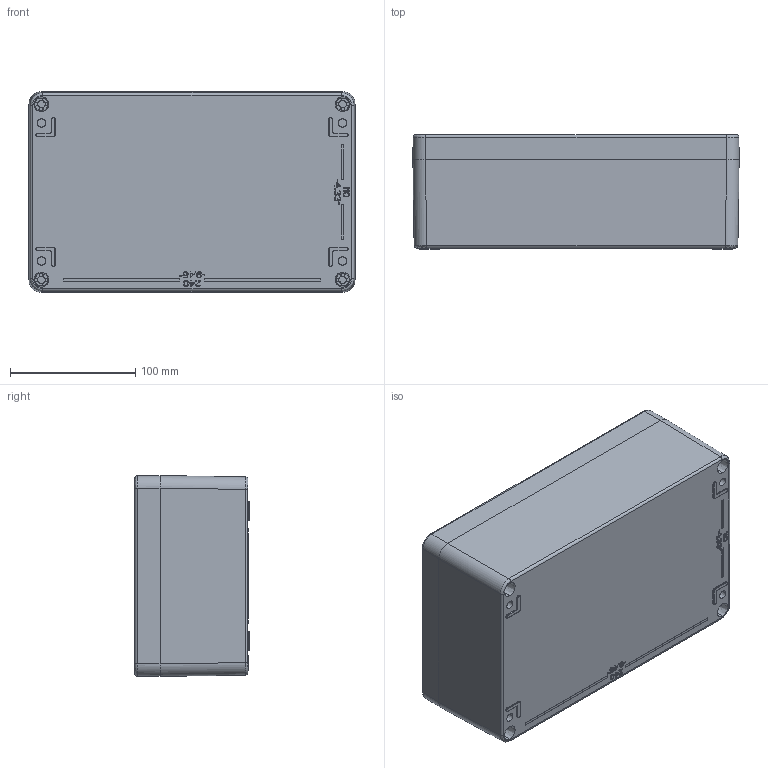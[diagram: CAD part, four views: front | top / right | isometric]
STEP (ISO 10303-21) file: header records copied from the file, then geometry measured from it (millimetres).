
FILE_DESCRIPTION((''),'2;1');
FILE_NAME('1290950000_ASM','2024-02-20T13:33:27',('Stephanie.Hoppe'),(''),'CREO PARAMETRIC BY PTC INC, 2022124','CREO PARAMETRIC BY PTC INC, 2022124','');
FILE_SCHEMA(('AUTOMOTIVE_DESIGN { 1 0 10303 214 1 1 1 1 }'));
Products named in the file (11): 9301036000_AF0; 9261018000; 9601342000_ASM; 9601607000_ASM; 9302013000_AF0; 9261116000; 9611142000_ASM; 9611322000_DICHTUNG; 9611357000_ASM; 9261021000; 1290950000_ASM
Assembly tree (16 placements, depth 4):
  1290950000_ASM
    9601607000_ASM
      9601342000_ASM
        9301036000_AF0
        9261018000  x4
    9611357000_ASM
      9611142000_ASM
        9302013000_AF0
        9261116000
      9611322000_DICHTUNG
    9261021000  x4
Bounding box: 260 x 91 x 160 mm (x, y, z)
Volume: 762373.4 mm3; surface area: 352511.9 mm2
Topology: 18 solids, 38 shells, 2073 faces, 5737 edges, 3809 vertices
Faces by surface type: plane 1171, cylinder 465, cone 242, bspline 151, torus 37, sphere 7
Entity records: 104003 total; most frequent: CARTESIAN_POINT 28563, DIRECTION 8665, ORIENTED_EDGE 8566, PRESENTATION_STYLE_ASSIGNMENT 6316, STYLED_ITEM 6311, CURVE_STYLE 4965, EDGE_CURVE 4289, VECTOR 3116
